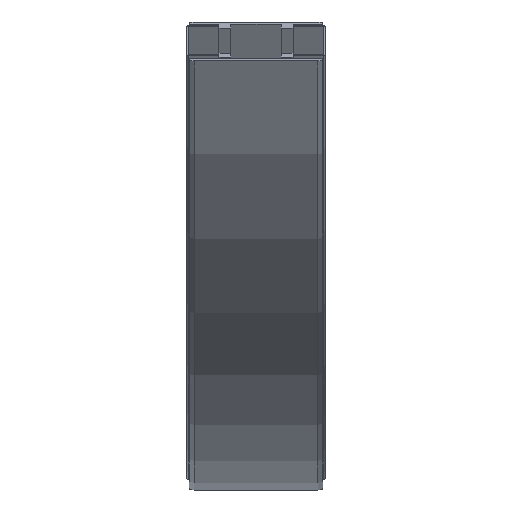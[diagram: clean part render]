
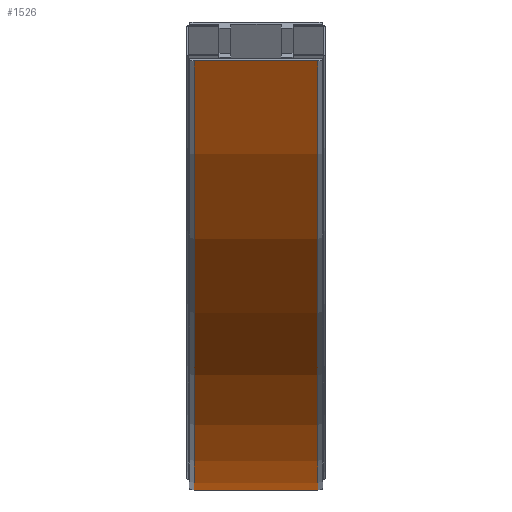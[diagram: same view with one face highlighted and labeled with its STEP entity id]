
A CAD part, left-side view. The second image highlights one B-rep face of the part: STEP entity #1526.
In plain terms, the highlighted cylindrical face has radius 902.5 mm (diameter 1805 mm), a partial arc.
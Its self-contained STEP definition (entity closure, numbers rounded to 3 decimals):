
#80=CYLINDRICAL_SURFACE('',#1643,902.5);
#149=FACE_OUTER_BOUND('',#236,.T.);
#236=EDGE_LOOP('',(#1052,#1053,#1054,#1055));
#323=CIRCLE('',#1633,902.5);
#328=CIRCLE('',#1642,902.5);
#400=LINE('',#2215,#526);
#401=LINE('',#2216,#527);
#526=VECTOR('',#1808,10.);
#527=VECTOR('',#1809,10.);
#643=VERTEX_POINT('',#2183);
#644=VERTEX_POINT('',#2185);
#652=VERTEX_POINT('',#2209);
#653=VERTEX_POINT('',#2211);
#799=EDGE_CURVE('',#643,#644,#323,.T.);
#813=EDGE_CURVE('',#652,#653,#328,.T.);
#814=EDGE_CURVE('',#643,#652,#400,.T.);
#815=EDGE_CURVE('',#644,#653,#401,.T.);
#1052=ORIENTED_EDGE('',*,*,#814,.T.);
#1053=ORIENTED_EDGE('',*,*,#813,.T.);
#1054=ORIENTED_EDGE('',*,*,#815,.F.);
#1055=ORIENTED_EDGE('',*,*,#799,.F.);
#1526=ADVANCED_FACE('',(#149),#80,.T.);
#1633=AXIS2_PLACEMENT_3D('',#2186,#1777,#1778);
#1642=AXIS2_PLACEMENT_3D('',#2213,#1804,#1805);
#1643=AXIS2_PLACEMENT_3D('',#2214,#1806,#1807);
#1777=DIRECTION('center_axis',(0.,1.,0.));
#1778=DIRECTION('ref_axis',(0.,0.,-1.));
#1804=DIRECTION('center_axis',(0.,1.,0.));
#1805=DIRECTION('ref_axis',(0.,0.,-1.));
#1806=DIRECTION('center_axis',(0.,1.,0.));
#1807=DIRECTION('ref_axis',(0.,0.,-1.));
#1808=DIRECTION('',(0.,-1.,0.));
#1809=DIRECTION('',(0.,-1.,0.));
#2183=CARTESIAN_POINT('',(0.,65.,-42.5));
#2185=CARTESIAN_POINT('',(-781.588,65.,408.75));
#2186=CARTESIAN_POINT('Origin',(0.,65.,860.));
#2209=CARTESIAN_POINT('',(0.,-65.,-42.5));
#2211=CARTESIAN_POINT('',(-781.588,-65.,408.75));
#2213=CARTESIAN_POINT('Origin',(0.,-65.,860.));
#2214=CARTESIAN_POINT('Origin',(0.,0.,860.));
#2215=CARTESIAN_POINT('',(0.,65.,-42.5));
#2216=CARTESIAN_POINT('',(-781.588,65.,408.75));
